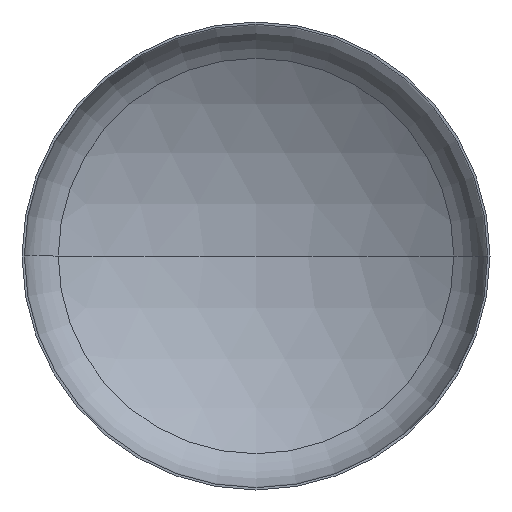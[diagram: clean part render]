
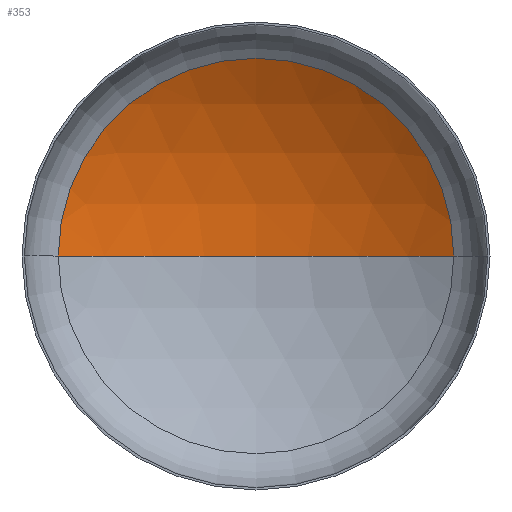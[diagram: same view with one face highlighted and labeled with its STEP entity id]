
A CAD part, front view. The second image highlights one B-rep face of the part: STEP entity #353.
In plain terms, the highlighted spherical face has radius 1120 mm.
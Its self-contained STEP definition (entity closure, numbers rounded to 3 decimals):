
#5 = AXIS2_PLACEMENT_3D ( 'NONE', #139, #359, #113 ) ;
#17 = AXIS2_PLACEMENT_3D ( 'NONE', #21, #250, #330 ) ;
#20 = AXIS2_PLACEMENT_3D ( 'NONE', #392, #222, #24 ) ;
#21 = CARTESIAN_POINT ( 'NONE',  ( 0., -743.467, 0. ) ) ;
#22 = AXIS2_PLACEMENT_3D ( 'NONE', #134, #293, #244 ) ;
#24 = DIRECTION ( 'NONE',  ( -1., 0., 0. ) ) ;
#110 = CARTESIAN_POINT ( 'NONE',  ( 591.558, 207.564, 0. ) ) ;
#113 = DIRECTION ( 'NONE',  ( -1., 0., 0. ) ) ;
#125 = ORIENTED_EDGE ( 'NONE', *, *, #311, .T. ) ;
#128 = EDGE_LOOP ( 'NONE', ( #395, #290, #125 ) ) ;
#134 = CARTESIAN_POINT ( 'NONE',  ( 0., 207.564, 0. ) ) ;
#139 = CARTESIAN_POINT ( 'NONE',  ( 0., -743.467, 0. ) ) ;
#164 = VERTEX_POINT ( 'NONE', #110 ) ;
#168 = SPHERICAL_SURFACE ( 'NONE', #5, 1120. ) ;
#192 = CARTESIAN_POINT ( 'NONE',  ( -591.558, 207.564, 0. ) ) ;
#222 = DIRECTION ( 'NONE',  ( 0., 0., -1. ) ) ;
#239 = FACE_OUTER_BOUND ( 'NONE', #128, .T. ) ;
#244 = DIRECTION ( 'NONE',  ( 1., 0., 0. ) ) ;
#250 = DIRECTION ( 'NONE',  ( 0., 0., 1. ) ) ;
#290 = ORIENTED_EDGE ( 'NONE', *, *, #314, .T. ) ;
#293 = DIRECTION ( 'NONE',  ( 0., -1., 0. ) ) ;
#311 = EDGE_CURVE ( 'NONE', #164, #318, #399, .T. ) ;
#314 = EDGE_CURVE ( 'NONE', #400, #164, #317, .T. ) ;
#317 = CIRCLE ( 'NONE', #20, 1120. ) ;
#318 = VERTEX_POINT ( 'NONE', #192 ) ;
#326 = EDGE_CURVE ( 'NONE', #400, #318, #390, .T. ) ;
#330 = DIRECTION ( 'NONE',  ( 1., 0., 0. ) ) ;
#353 = ADVANCED_FACE ( 'NONE', ( #239 ), #168, .F. ) ;
#359 = DIRECTION ( 'NONE',  ( 0., 0., -1. ) ) ;
#363 = CARTESIAN_POINT ( 'NONE',  ( 0., 376.533, 0. ) ) ;
#390 = CIRCLE ( 'NONE', #17, 1120. ) ;
#392 = CARTESIAN_POINT ( 'NONE',  ( 0., -743.467, 0. ) ) ;
#395 = ORIENTED_EDGE ( 'NONE', *, *, #326, .F. ) ;
#399 = CIRCLE ( 'NONE', #22, 591.558 ) ;
#400 = VERTEX_POINT ( 'NONE', #363 ) ;
